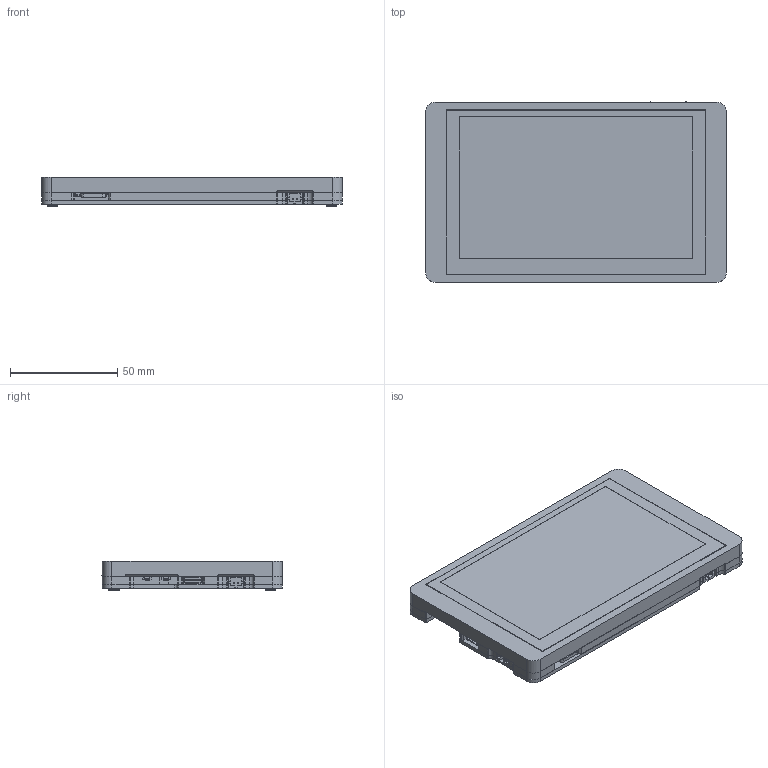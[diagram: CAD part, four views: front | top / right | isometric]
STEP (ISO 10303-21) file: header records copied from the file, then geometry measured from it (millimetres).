
FILE_DESCRIPTION((''),'2;1');
FILE_NAME('5IN_ASM','2024-09-18T17:53:01',('DNZJ-104'),(''),'CREO PARAMETRIC BY PTC INC, 2022164','CREO PARAMETRIC BY PTC INC, 2022164','');
FILE_SCHEMA(('CONFIG_CONTROL_DESIGN'));
Products named in the file (39): 5IN-PCB-0221_A; BREP_1-383; BREP_2-384; _X2_56FE5757_X0__01_A_ASM; BREP_1-358; BREP_2-359; BREP_3; BREP_4; BREP_5; BREP_6; BREP_7; BREP_8; BREP_9; BREP_10; BREP_11; BREP_12; BREP_13; BREP_14; BREP_15; BREP_16; BREP_17; BREP_18; BREP_19; BREP_20; BREP_21; BREP_22; BREP_23; BREP_24; BREP_25; BREP_26; BREP_27; BREP_31; BREP_33; BREP_32; DOCUMENT_A_ASM; HD; 5IN-JZ; CROWPANEL_ESP32_DISPLAY-5_0-INC; 5IN_ASM
Assembly tree (39 placements, depth 4):
  5IN_ASM
    DOCUMENT_A_ASM
      5IN-PCB-0221_A
      _X2_56FE5757_X0__01_A_ASM
        BREP_1-383
        BREP_2-384
      BREP_1-358
      BREP_2-359
      BREP_3
      BREP_4
      BREP_5
      BREP_6
      BREP_7
      BREP_8
      BREP_9
      BREP_10
      BREP_11
      BREP_12
      BREP_13
      BREP_14
      BREP_15
      BREP_16
      BREP_17
      BREP_18
      BREP_19
      BREP_20
      BREP_21
      BREP_22
      BREP_23
      BREP_24
      BREP_25
      BREP_26
      BREP_27
      BREP_31
      BREP_33
      BREP_32  x2
    HD
    5IN-JZ
    CROWPANEL_ESP32_DISPLAY-5_0-INC
Bounding box: 140.2 x 84.33 x 13.78 mm (x, y, z)
Volume: 106210 mm3; surface area: 125826.6 mm2
Topology: 34 solids, 75 shells, 4879 faces, 14207 edges, 9434 vertices
Faces by surface type: plane 3766, cylinder 1012, revolution 28, bspline 22, torus 21, extrusion 13, cone 11, sphere 6
Entity records: 159817 total; most frequent: CARTESIAN_POINT 31189, ORIENTED_EDGE 27566, DIRECTION 25429, EDGE_CURVE 13888, VECTOR 11463, LINE 11450, VERTEX_POINT 9228, AXIS2_PLACEMENT_3D 6969
